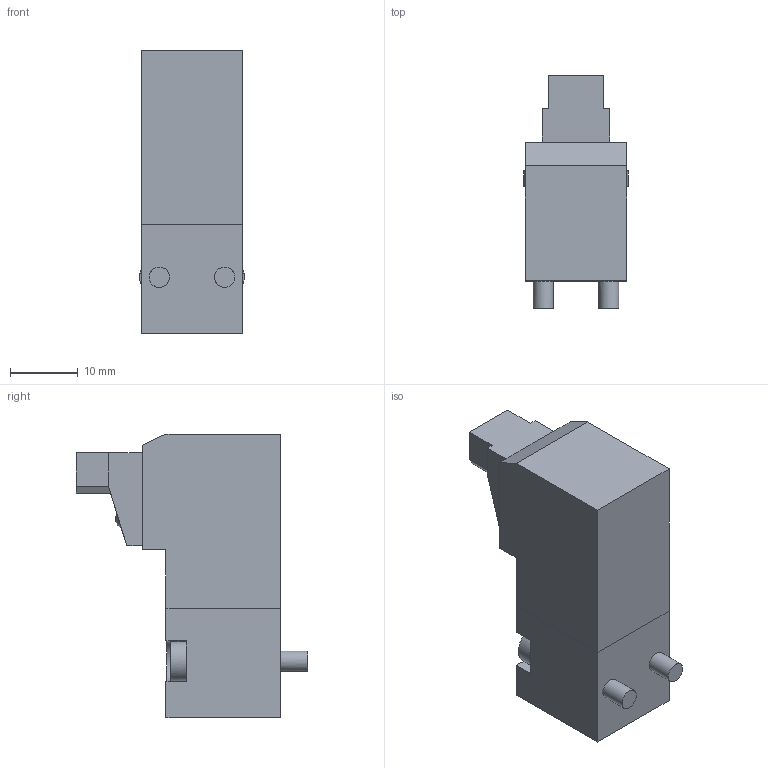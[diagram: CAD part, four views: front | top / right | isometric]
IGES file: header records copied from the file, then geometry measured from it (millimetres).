
Global section: file name: N3##_6L#-2; native system: Autodesk Inventor 2014; preprocessor: unknown; author: A. Manieri; organization: Pneumax S.p.A.; date: 20160913.134749; units: millimetre
Bounding box: 15.5 x 34.3 x 42 mm (x, y, z)
Volume: 12225.8 mm3; surface area: 4078.9 mm2
Topology: 1 solids, 1 shells, 88 faces, 228 edges, 149 vertices
Faces by surface type: bspline 88
